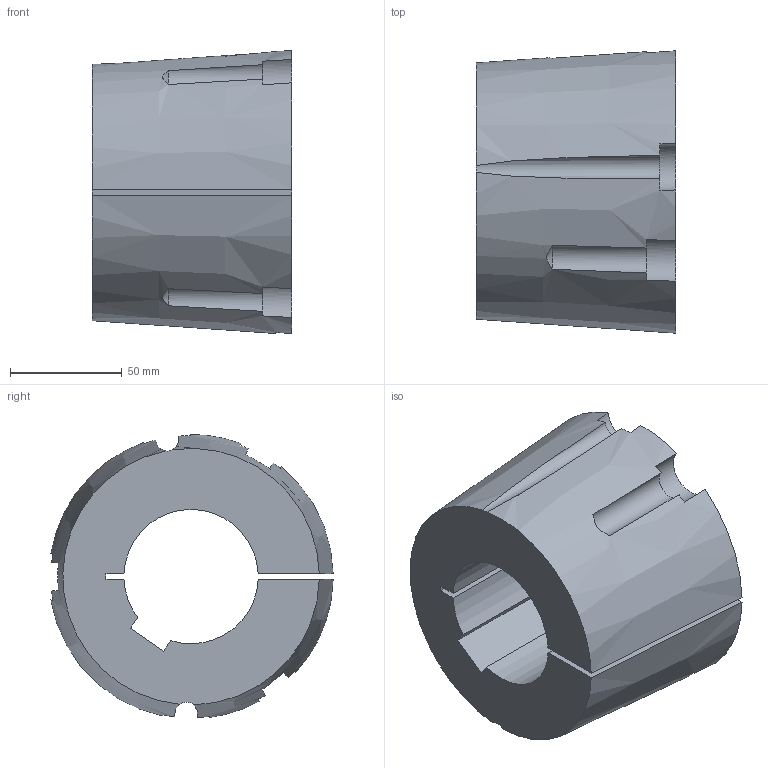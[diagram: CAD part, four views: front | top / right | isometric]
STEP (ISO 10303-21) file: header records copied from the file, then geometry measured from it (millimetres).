
FILE_DESCRIPTION( ( 'STEP AP203' ), '1' );
FILE_NAME( 'D:/export/antriebselemente/spannbuchsen_und_spannsaetze/taper-spannbuchsen_1008_bis_5050/taper-spannbuchsen_62251060Isometric_213.stp', '2018-12-11T11:11:27', ( '' ), ( '' ), ' ', 'PARTsolutions', ' ' );
FILE_SCHEMA( ( 'CONFIG_CONTROL_DESIGN' ) );
Length unit declared in the file: millimetre
Products named in the file (1): _taper-spannbuchsen_62251060
Bounding box: 89 x 126.13 x 126.46 mm (x, y, z)
Volume: 729599.1 mm3; surface area: 76686.6 mm2
Topology: 1 solids, 1 shells, 34 faces, 96 edges, 64 vertices
Faces by surface type: plane 15, cylinder 13, cone 6
Entity records: 1315 total; most frequent: CARTESIAN_POINT 391, ORIENTED_EDGE 192, DIRECTION 186, EDGE_CURVE 96, AXIS2_PLACEMENT_3D 80, VERTEX_POINT 64, CIRCLE 45, ADVANCED_FACE 34
